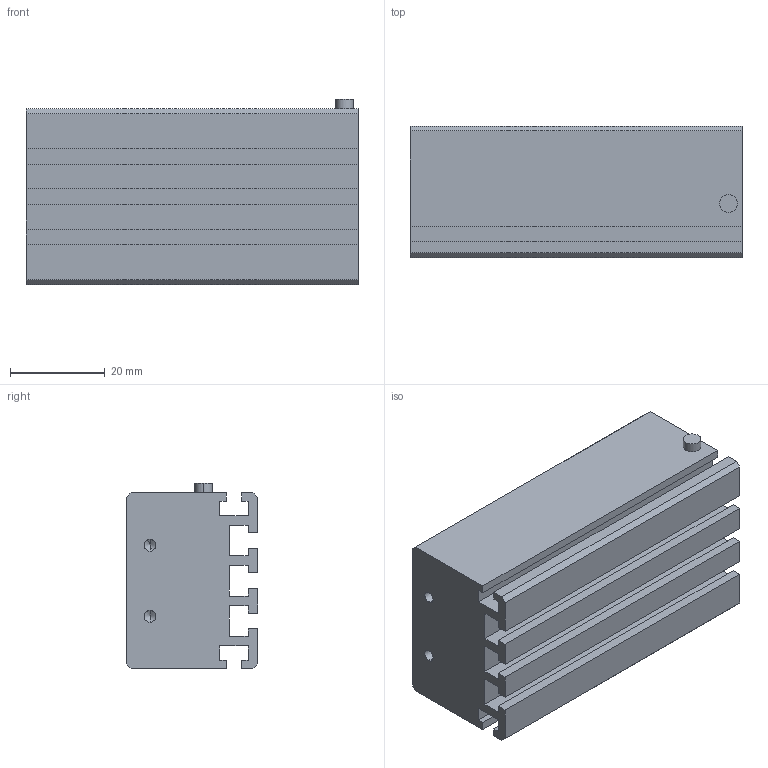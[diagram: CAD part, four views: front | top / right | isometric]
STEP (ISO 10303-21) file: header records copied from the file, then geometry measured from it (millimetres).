
FILE_DESCRIPTION (( 'STEP AP203' ), '1' );
FILE_NAME ('LRD-B6-70.STEP', '2022-08-25T06:24:28', ( 'TNT' ), ( '' ), 'SwSTEP 2.0', 'SolidWorks 2018', '' );
FILE_SCHEMA (( 'CONFIG_CONTROL_DESIGN' ));
Length unit declared in the file: millimetre
Products named in the file (1): LRD-B6-70
Bounding box: 70 x 27.7 x 39.1 mm (x, y, z)
Volume: 59696.5 mm3; surface area: 16995.1 mm2
Topology: 1 solids, 1 shells, 74 faces, 202 edges, 128 vertices
Faces by surface type: plane 56, cylinder 10, cone 8
Entity records: 2323 total; most frequent: CARTESIAN_POINT 397, ORIENTED_EDGE 388, DIRECTION 364, EDGE_CURVE 194, VECTOR 174, LINE 174, VERTEX_POINT 128, AXIS2_PLACEMENT_3D 95
